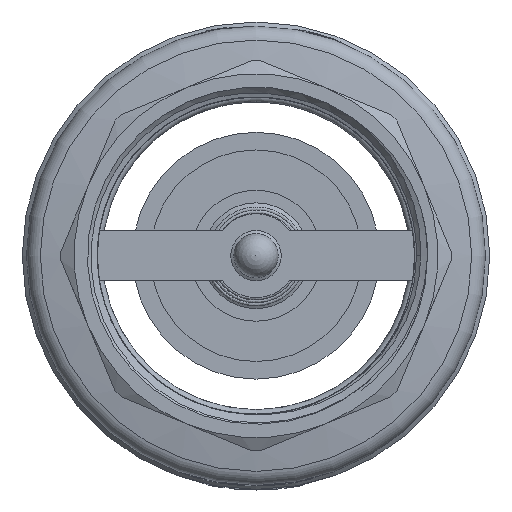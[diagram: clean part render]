
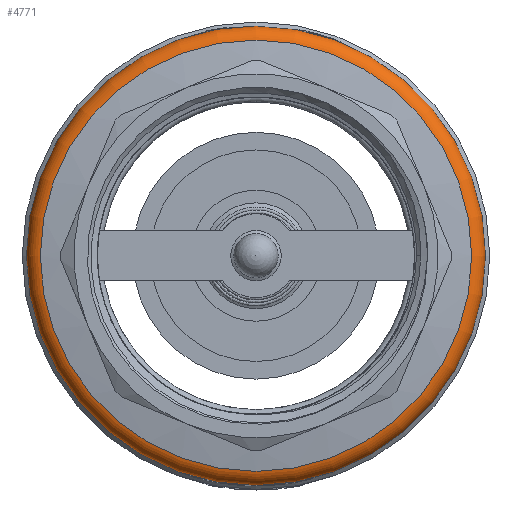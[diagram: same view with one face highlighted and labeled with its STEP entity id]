
A CAD part, left-side view. The second image highlights one B-rep face of the part: STEP entity #4771.
In plain terms, the highlighted toroidal (fillet/blend) face has major radius 38 mm and minor radius 3 mm.
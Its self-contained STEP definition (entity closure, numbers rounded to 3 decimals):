
#16=TOROIDAL_SURFACE('',#5188,38.,3.);
#365=CIRCLE('',#4980,41.);
#366=CIRCLE('',#4981,41.);
#367=CIRCLE('',#4982,41.);
#445=CIRCLE('',#5185,38.521);
#446=CIRCLE('',#5186,38.521);
#447=CIRCLE('',#5187,38.521);
#448=CIRCLE('',#5189,3.);
#738=FACE_OUTER_BOUND('',#1014,.T.);
#1014=EDGE_LOOP('',(#4207,#4208,#4209,#4210,#4211,#4212,#4213,#4214));
#2037=VERTEX_POINT('',#11133);
#2038=VERTEX_POINT('',#11135);
#2039=VERTEX_POINT('',#11137);
#2224=VERTEX_POINT('',#14824);
#2225=VERTEX_POINT('',#14825);
#2226=VERTEX_POINT('',#14827);
#2616=EDGE_CURVE('',#2037,#2038,#365,.T.);
#2617=EDGE_CURVE('',#2038,#2039,#366,.T.);
#2618=EDGE_CURVE('',#2039,#2037,#367,.T.);
#2926=EDGE_CURVE('',#2224,#2225,#445,.T.);
#2927=EDGE_CURVE('',#2226,#2224,#446,.T.);
#2929=EDGE_CURVE('',#2225,#2226,#447,.T.);
#2930=EDGE_CURVE('',#2039,#2225,#448,.T.);
#4207=ORIENTED_EDGE('',*,*,#2617,.F.);
#4208=ORIENTED_EDGE('',*,*,#2616,.F.);
#4209=ORIENTED_EDGE('',*,*,#2618,.F.);
#4210=ORIENTED_EDGE('',*,*,#2930,.T.);
#4211=ORIENTED_EDGE('',*,*,#2929,.T.);
#4212=ORIENTED_EDGE('',*,*,#2927,.T.);
#4213=ORIENTED_EDGE('',*,*,#2926,.T.);
#4214=ORIENTED_EDGE('',*,*,#2930,.F.);
#4771=ADVANCED_FACE('',(#738),#16,.T.);
#4980=AXIS2_PLACEMENT_3D('',#11136,#5741,#5742);
#4981=AXIS2_PLACEMENT_3D('',#11138,#5743,#5744);
#4982=AXIS2_PLACEMENT_3D('',#11139,#5745,#5746);
#5185=AXIS2_PLACEMENT_3D('',#14826,#6275,#6276);
#5186=AXIS2_PLACEMENT_3D('',#14828,#6277,#6278);
#5187=AXIS2_PLACEMENT_3D('',#14830,#6280,#6281);
#5188=AXIS2_PLACEMENT_3D('',#14831,#6282,#6283);
#5189=AXIS2_PLACEMENT_3D('',#14832,#6284,#6285);
#5741=DIRECTION('center_axis',(1.,0.,0.));
#5742=DIRECTION('ref_axis',(0.,0.,-1.));
#5743=DIRECTION('center_axis',(1.,0.,0.));
#5744=DIRECTION('ref_axis',(0.,0.,-1.));
#5745=DIRECTION('center_axis',(1.,0.,0.));
#5746=DIRECTION('ref_axis',(0.,0.,-1.));
#6275=DIRECTION('center_axis',(1.,0.,0.));
#6276=DIRECTION('ref_axis',(0.,0.,-1.));
#6277=DIRECTION('center_axis',(1.,0.,0.));
#6278=DIRECTION('ref_axis',(0.,0.,-1.));
#6280=DIRECTION('center_axis',(1.,0.,0.));
#6281=DIRECTION('ref_axis',(0.,0.,-1.));
#6282=DIRECTION('center_axis',(1.,0.,0.));
#6283=DIRECTION('ref_axis',(0.,0.,-1.));
#6284=DIRECTION('center_axis',(0.,-1.,0.));
#6285=DIRECTION('ref_axis',(0.,0.,1.));
#11133=CARTESIAN_POINT('',(-18.483,-41.,0.));
#11135=CARTESIAN_POINT('',(-18.483,41.,0.));
#11136=CARTESIAN_POINT('Origin',(-18.483,0.,
0.));
#11137=CARTESIAN_POINT('',(-18.483,0.,41.));
#11138=CARTESIAN_POINT('Origin',(-18.483,0.,
0.));
#11139=CARTESIAN_POINT('Origin',(-18.483,0.,
0.));
#14824=CARTESIAN_POINT('',(-21.437,38.521,0.));
#14825=CARTESIAN_POINT('',(-21.437,0.,38.521));
#14826=CARTESIAN_POINT('Origin',(-21.437,0.,
0.));
#14827=CARTESIAN_POINT('',(-21.437,-38.521,0.));
#14828=CARTESIAN_POINT('Origin',(-21.437,0.,
0.));
#14830=CARTESIAN_POINT('Origin',(-21.437,0.,
0.));
#14831=CARTESIAN_POINT('Origin',(-18.483,0.,
0.));
#14832=CARTESIAN_POINT('Origin',(-18.483,0.,
38.));
